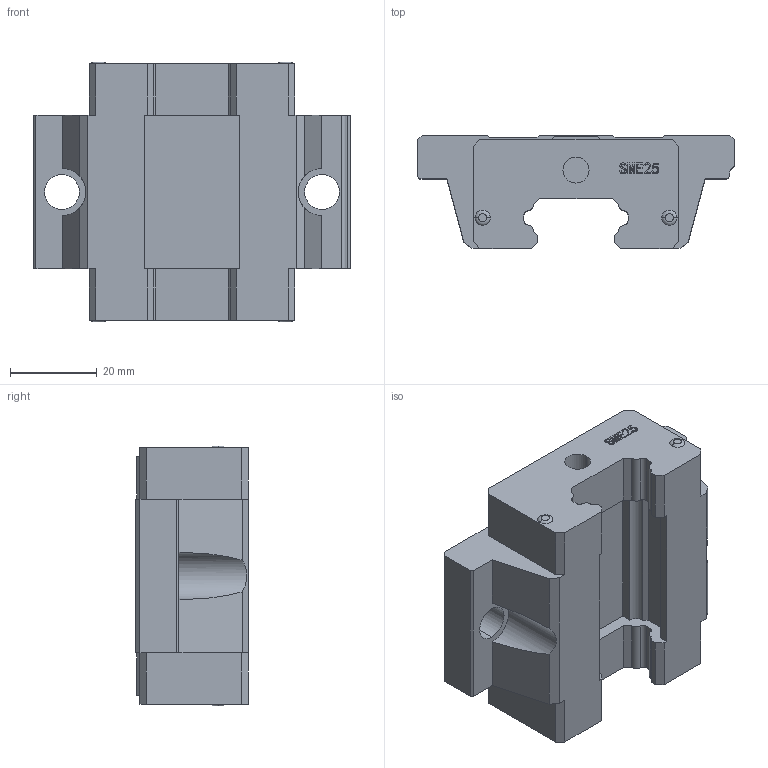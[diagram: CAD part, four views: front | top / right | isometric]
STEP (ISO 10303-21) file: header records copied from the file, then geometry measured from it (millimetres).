
FILE_DESCRIPTION (( 'STEP AP203' ), '1' );
FILE_NAME ('SME25AS.stp', '2019-09-20T05:27:05', ( 'pgos' ), ( '' ), 'SwSTEP 2.0', 'SolidWorks 2014', '' );
FILE_SCHEMA (( 'CONFIG_CONTROL_DESIGN' ));
Length unit declared in the file: millimetre
Products named in the file (1): SME25AS
Bounding box: 73 x 26 x 59.9 mm (x, y, z)
Volume: 64223.2 mm3; surface area: 15709.4 mm2
Topology: 1 solids, 3 shells, 210 faces, 579 edges, 386 vertices
Faces by surface type: plane 144, cylinder 39, bspline 19, torus 8
Entity records: 8298 total; most frequent: CARTESIAN_POINT 2901, ORIENTED_EDGE 1158, DIRECTION 1019, EDGE_CURVE 579, LINE 435, VECTOR 435, VERTEX_POINT 386, AXIS2_PLACEMENT_3D 292
